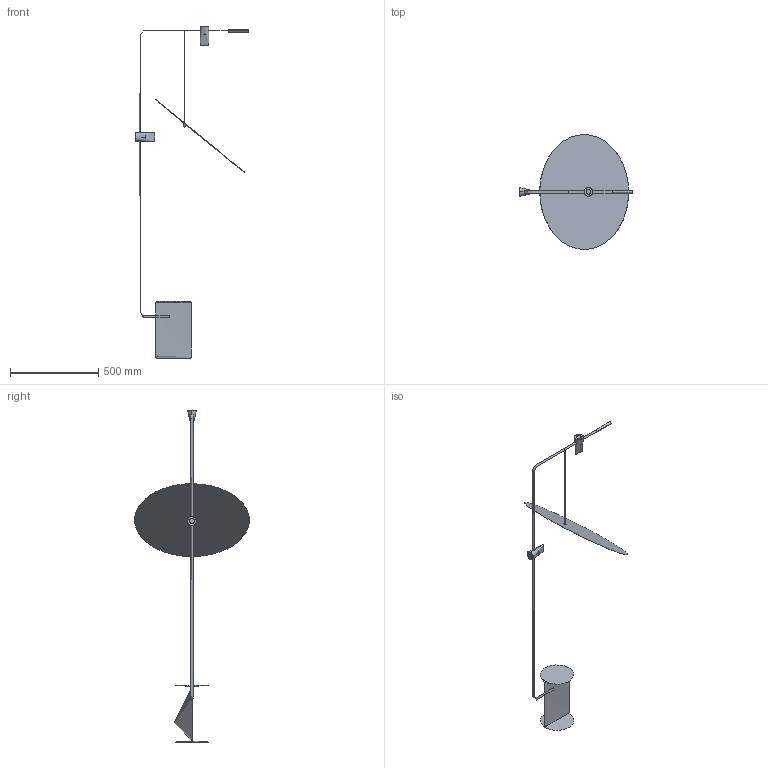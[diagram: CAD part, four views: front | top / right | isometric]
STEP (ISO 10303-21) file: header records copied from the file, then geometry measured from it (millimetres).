
FILE_DESCRIPTION(/* description */ (''),/* implementation_level */ '2;1');
FILE_NAME(/* name */ 'The Moon Floor Lamp',/* time_stamp */ '2020-03-03T09:52:20+01:00',/* author */ (''),/* organization */ (''),/* preprocessor_version */ 'ST-DEVELOPER v15',/* originating_system */ '',/* authorisation */ '');
FILE_SCHEMA (('AUTOMOTIVE_DESIGN'));
Length unit declared in the file: millimetre
Products named in the file (1): Document
Bounding box: 640.12 x 648.82 x 1880.07 mm (x, y, z)
Volume: 484126 mm3; surface area: 1135098 mm2
Topology: 10 solids, 12 shells, 67 faces, 126 edges, 76 vertices
Faces by surface type: bspline 50, plane 17
Entity records: 2726 total; most frequent: CARTESIAN_POINT 1935, ORIENTED_EDGE 234, EDGE_CURVE 120, VERTEX_POINT 74, ADVANCED_FACE 67, FACE_OUTER_BOUND 67, EDGE_LOOP 67, DIRECTION 26
